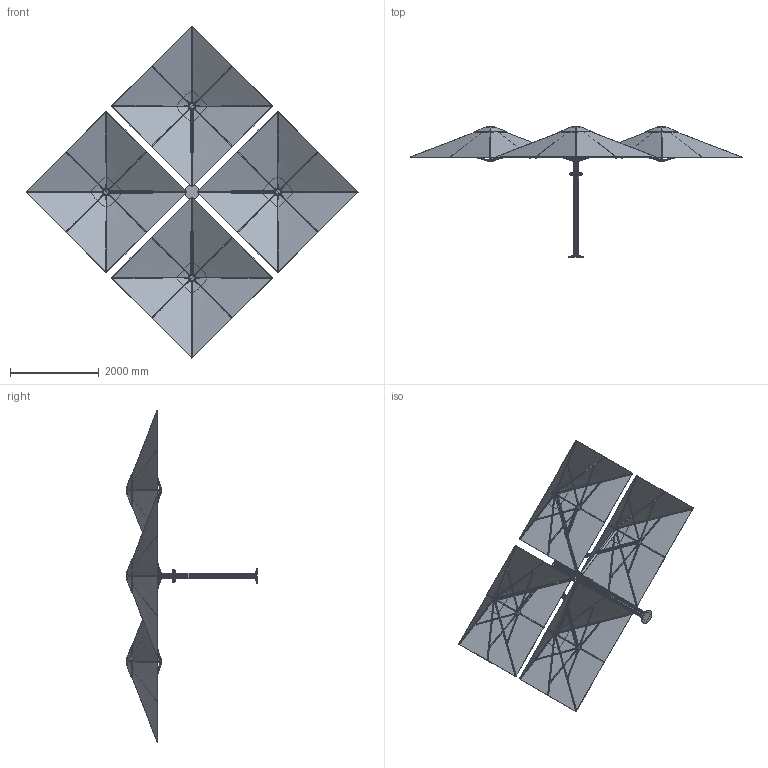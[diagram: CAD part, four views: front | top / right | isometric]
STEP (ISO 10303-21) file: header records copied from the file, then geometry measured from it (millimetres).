
FILE_DESCRIPTION (( 'STEP AP214' ), '1' );
FILE_NAME ('Unity 2.5M CNR SQ Quattro.STEP', '2020-06-17T00:21:21', ( '' ), ( '' ), 'SwSTEP 2.0', 'SolidWorks 2017', '' );
FILE_SCHEMA (( 'AUTOMOTIVE_DESIGN' ));
Length unit declared in the file: millimetre
Products named in the file (52): SMP_UM - 110167; SMP_UM - 110093; SMP_UM - 110059; SMP_UM - 110123; SMP_UM - 110079; SMP_UM - 110096_PD; SMP_UM - 110185; SMP_UM - 110075; SMP_UM - 110184; SMP_UM - 010024_Canopy Only-OPEN; SMP_UM - 110066; SMP_UM - 110063; Unity 2.5M CNR SQ Quattro; SMP_UM - 110085; SMP_UM - 110112_ALL HOLES; SMP_UM - 110080; SMP_UM - 110110; socket button head cap screw_am_B18.3.4M - 5 x 0.8 x 16 SBHCS --N; SMP_UM - 110168; SMP_UM - 110088; SMP_UM - 110116; SMP_UM - 210036; SMP_UM - 110084; parallel pin hardened_bsi_BS EN ISO 8734 - 4 x 20 - A - St; SMP_UM - 210037; SMP_UM - 210043 - Gastec Spring_Extended; SMP_UM - 110098; SMP_UM - 110092; SMP_UM - 110222; SMP_UM - 110206; SMP_UM - 210023; SMP_UM - 110070; SMP_UM - 110069; SMP_UM - 110131; SMP_UM - 110166; SMP_UM - 110083b; SMP_UM - 110124; SMP_UM - 110064; SMP_UM - 110065; SMP_UM - 110313_Default<As Machined>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
Assembly tree (71 placements, depth 4):
  Unity 2.5M CNR SQ Quattro
    SMP_UM - 110116
      SMP_UM - 110112_ALL HOLES
    SMP_UM - 110123
      SMP_UM - 110313_Default<As Machined>
      SMP_UM - 110124
      SMP_UM - 210026
    SMP_UM - 110222
    SMP_UM - 110126 (2)
    SMP_UM - 010024_Canopy Only-OPEN  x4
      SMP_UM - 110059
        SMP_UM - 110081
        SMP_UM - 110080  x2
      SMP_UM - 110060
        SMP_UM - 110083
        SMP_UM - 110084
        SMP_UM - 210023
        socket button head cap screw_am_B18.3.4M - 5 x 0.8 x 16 SBHCS --N
        SMP_UM - 210036
        SMP_UM - 110085  x2
        SMP_UM - 110083b
      SMP_UM - 110064
        SMP_UM - 110092
      SMP_UM - 110063
        SMP_UM - 110092
        SMP_UM - 110093
        SMP_UM - 210037
        SMP_UM - 110094
        SMP_UM - 110110
      SMP_UM - 110166
        SMP_UM - 110182
        SMP_UM - 110088
        SMP_UM - 110131
      SMP_UM - 110206
        SMP_UM - 110183
      SMP_UM - 110066
        SMP_UM - 110098
        SMP_UM - 110075
        SMP_UM - 110096_PD
        SMP_UM - 110102_Stretched
      SMP_UM - 210043 - Gastec Spring_Extended
      SMP_UM - 110207
        SMP_UM - 110184
        SMP_UM - 110088
        SMP_UM - 110131
      SMP_UM - 110167
        SMP_UM - 110185
      SMP_UM - 110168
        SMP_UM - 110075
        SMP_UM - 110079
      SMP_UM - 010264 - 2.5M Fabric Canopy
    SMP_UM - 110117
    SMP_UM - 110065  x2
      SMP_UM - 110070
      SMP_UM - 110069
      parallel pin hardened_bsi_BS EN ISO 8734 - 4 x 20 - A - St
Bounding box: 7479.23 x 2943.5 x 7479.23 mm (x, y, z)
Volume: 152605509.7 mm3; surface area: 75672297.5 mm2
Topology: 233 solids, 241 shells, 5624 faces, 13800 edges, 8633 vertices
Faces by surface type: cylinder 1997, plane 1559, bspline 1156, cone 570, torus 322, sphere 20
Entity records: 63546 total; most frequent: CARTESIAN_POINT 33921, ORIENTED_EDGE 6058, DIRECTION 5536, EDGE_CURVE 3029, AXIS2_PLACEMENT_3D 2244, VERTEX_POINT 1874, EDGE_LOOP 1301, ADVANCED_FACE 1254
